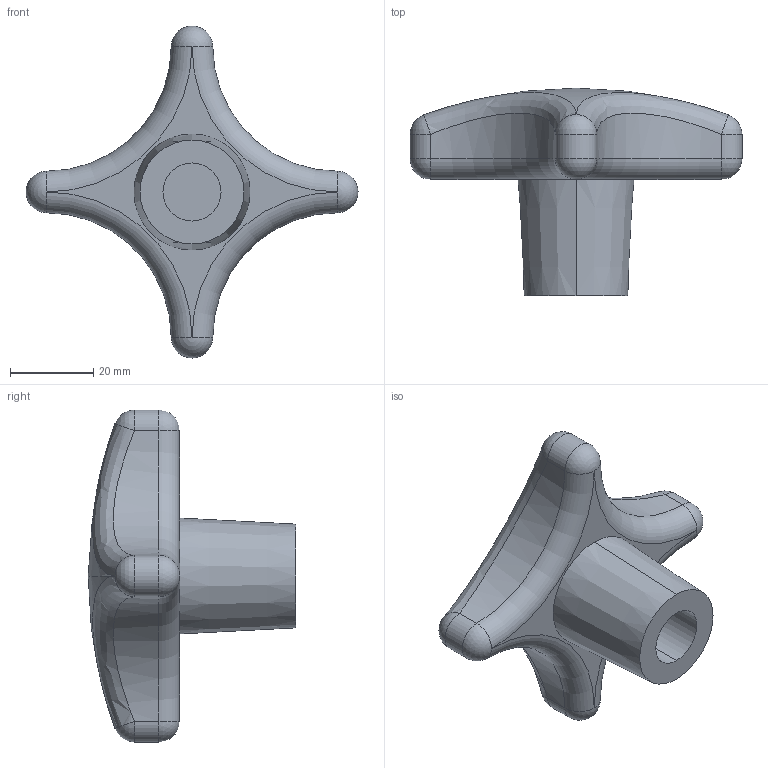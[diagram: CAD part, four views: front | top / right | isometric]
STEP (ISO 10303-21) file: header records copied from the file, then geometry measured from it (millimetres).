
FILE_DESCRIPTION (( 'STEP AP203' ), '1' );
FILE_NAME ('7000.W480.step', '2010-01-29T17:39:15', ( 'Wixroyd' ), ( 'Wixroyd' ), 'SwSTEP 2.0', 'SolidWorks 2009', '' );
FILE_SCHEMA (( 'CONFIG_CONTROL_DESIGN' ));
Length unit declared in the file: millimetre
Products named in the file (1): 7000.W480
Bounding box: 80 x 50 x 80 mm (x, y, z)
Volume: 52223.7 mm3; surface area: 11648.3 mm2
Topology: 1 solids, 1 shells, 34 faces, 69 edges, 35 vertices
Faces by surface type: cylinder 11, sphere 10, torus 4, bspline 4, plane 3, cone 2
Entity records: 3710 total; most frequent: CARTESIAN_POINT 2943, DIRECTION 163, ORIENTED_EDGE 130, AXIS2_PLACEMENT_3D 75, EDGE_CURVE 65, CIRCLE 44, EDGE_LOOP 36, VERTEX_POINT 35
